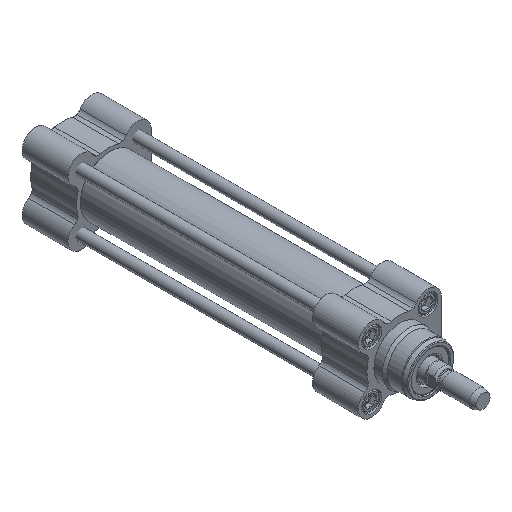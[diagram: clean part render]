
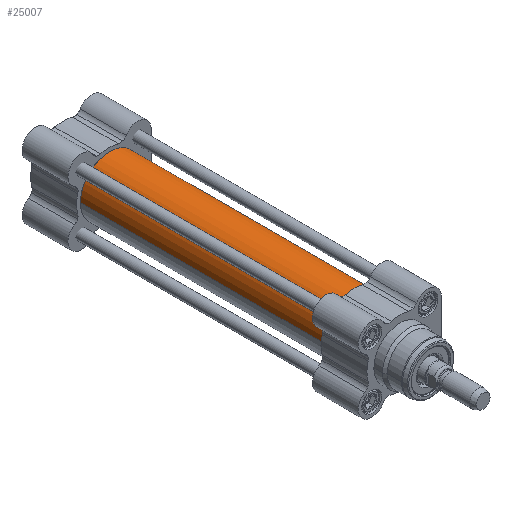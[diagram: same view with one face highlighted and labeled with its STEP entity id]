
A CAD part, isometric view. The second image highlights one B-rep face of the part: STEP entity #25007.
In plain terms, the highlighted cylindrical face has radius 17 mm (diameter 34 mm), a partial arc.
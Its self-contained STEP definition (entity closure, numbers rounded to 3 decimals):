
#247 = EDGE_LOOP ( 'NONE', ( #10124, #400, #8667, #3248 ) ) ;
#268 = CARTESIAN_POINT ( 'NONE',  ( -17., 0., 0. ) ) ;
#400 = ORIENTED_EDGE ( 'NONE', *, *, #17983, .F. ) ;
#855 = EDGE_CURVE ( 'NONE', #8442, #21613, #24387, .T. ) ;
#1558 = CARTESIAN_POINT ( 'NONE',  ( 17., 70.3, 0. ) ) ;
#2073 = CARTESIAN_POINT ( 'NONE',  ( 0., 70.3, 0. ) ) ;
#2154 = VECTOR ( 'NONE', #10596, 1000. ) ;
#2351 = LINE ( 'NONE', #268, #2154 ) ;
#2518 = VERTEX_POINT ( 'NONE', #23234 ) ;
#3248 = ORIENTED_EDGE ( 'NONE', *, *, #855, .F. ) ;
#4405 = CARTESIAN_POINT ( 'NONE',  ( 17., -70.3, 0. ) ) ;
#6045 = VERTEX_POINT ( 'NONE', #4405 ) ;
#8157 = AXIS2_PLACEMENT_3D ( 'NONE', #11891, #21811, #19845 ) ;
#8442 = VERTEX_POINT ( 'NONE', #17495 ) ;
#8667 = ORIENTED_EDGE ( 'NONE', *, *, #21196, .T. ) ;
#8831 = CARTESIAN_POINT ( 'NONE',  ( 17., 0., 0. ) ) ;
#10065 = DIRECTION ( 'NONE',  ( 0., 1., 0. ) ) ;
#10124 = ORIENTED_EDGE ( 'NONE', *, *, #16408, .F. ) ;
#10218 = AXIS2_PLACEMENT_3D ( 'NONE', #2073, #10065, #12276 ) ;
#10596 = DIRECTION ( 'NONE',  ( 0., 1., 0. ) ) ;
#10801 = LINE ( 'NONE', #8831, #13188 ) ;
#11080 = CIRCLE ( 'NONE', #8157, 17. ) ;
#11891 = CARTESIAN_POINT ( 'NONE',  ( 0., -70.3, 0. ) ) ;
#12276 = DIRECTION ( 'NONE',  ( 1., 0., 0. ) ) ;
#13011 = DIRECTION ( 'NONE',  ( 0., 1., 0. ) ) ;
#13188 = VECTOR ( 'NONE', #13011, 1000. ) ;
#14368 = FACE_OUTER_BOUND ( 'NONE', #247, .T. ) ;
#16408 = EDGE_CURVE ( 'NONE', #2518, #8442, #2351, .T. ) ;
#17495 = CARTESIAN_POINT ( 'NONE',  ( -17., 70.3, 0. ) ) ;
#17983 = EDGE_CURVE ( 'NONE', #6045, #2518, #11080, .T. ) ;
#18538 = DIRECTION ( 'NONE',  ( 1., 0., 0. ) ) ;
#19845 = DIRECTION ( 'NONE',  ( 1., 0., 0. ) ) ;
#20231 = CARTESIAN_POINT ( 'NONE',  ( 0., 0., 0. ) ) ;
#20487 = DIRECTION ( 'NONE',  ( 0., 1., 0. ) ) ;
#20620 = CYLINDRICAL_SURFACE ( 'NONE', #24308, 17. ) ;
#21196 = EDGE_CURVE ( 'NONE', #6045, #21613, #10801, .T. ) ;
#21613 = VERTEX_POINT ( 'NONE', #1558 ) ;
#21811 = DIRECTION ( 'NONE',  ( 0., -1., 0. ) ) ;
#23234 = CARTESIAN_POINT ( 'NONE',  ( -17., -70.3, 0. ) ) ;
#24308 = AXIS2_PLACEMENT_3D ( 'NONE', #20231, #20487, #18538 ) ;
#24387 = CIRCLE ( 'NONE', #10218, 17. ) ;
#25007 = ADVANCED_FACE ( 'NONE', ( #14368 ), #20620, .T. ) ;
